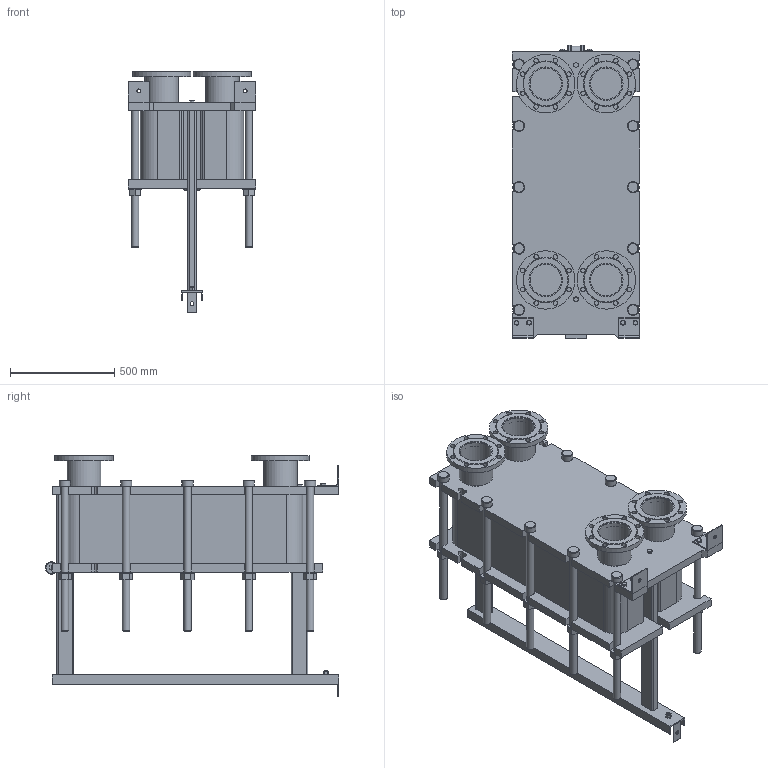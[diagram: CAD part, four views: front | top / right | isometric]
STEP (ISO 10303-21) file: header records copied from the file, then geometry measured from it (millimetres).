
FILE_DESCRIPTION(/* description */ (''),/* implementation_level */ '2;1');
FILE_NAME(/* name */ 'C:\Users\zhuro\Desktop\ENCO\TO\ЭН-041\ЭН-0,5-041-96-1.stp',/* time_stamp */ '2022-06-06T10:57:43+03:00',/* author */ ('zhuro'),/* organization */ (''),/* preprocessor_version */ 'ST-DEVELOPER v18.1',/* originating_system */ 'Autodesk Inventor 2022',/* authorisation */ '');
FILE_SCHEMA (('AUTOMOTIVE_DESIGN { 1 0 10303 214 3 1 1 }'));
Length unit declared in the file: millimetre
Products named in the file (1): ЭН-0,5-041-96-1
Bounding box: 610 x 1406.5 x 1160 mm (x, y, z)
Volume: 266471288.4 mm3; surface area: 8936314.4 mm2
Topology: 52 solids, 52 shells, 711 faces, 1696 edges, 1094 vertices
Faces by surface type: plane 487, cylinder 177, cone 41, torus 6
Full cylindrical faces by diameter (mm): 8 x4, 10 x2, 16 x8, 18 x3, 22 x32, 36 x24, 50 x1, 54 x10, 60 x12, 151 x4, 161 x8, 280 x4
Entity records: 22667 total; most frequent: CARTESIAN_POINT 5230, DIRECTION 3644, ORIENTED_EDGE 3392, EDGE_CURVE 1696, AXIS2_PLACEMENT_3D 1272, LINE 1100, VECTOR 1100, VERTEX_POINT 1094
